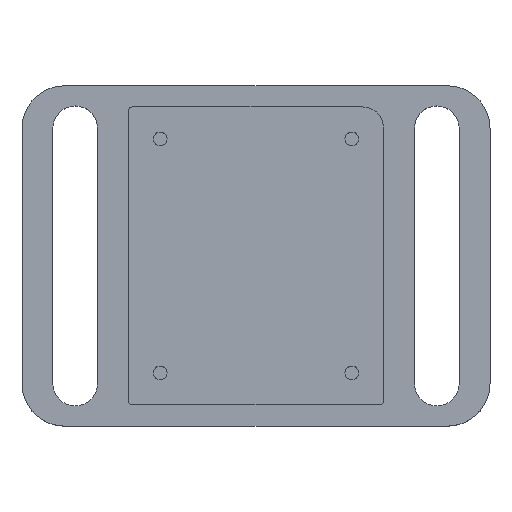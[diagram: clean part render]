
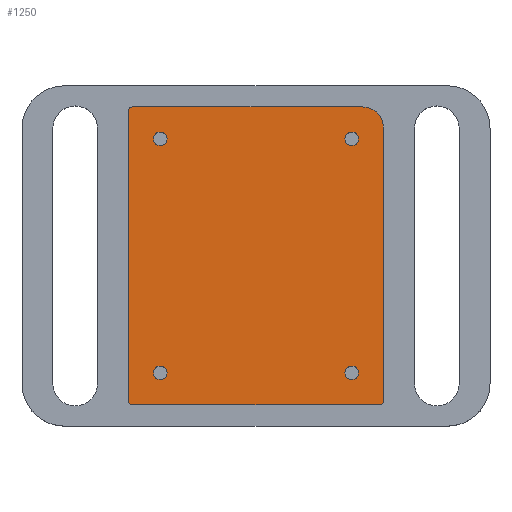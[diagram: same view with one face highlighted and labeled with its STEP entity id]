
A CAD part, top view. The second image highlights one B-rep face of the part: STEP entity #1250.
In plain terms, the highlighted planar face has unit normal (0, 0, 1).
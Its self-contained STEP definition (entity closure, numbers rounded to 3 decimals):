
#906=AXIS2_PLACEMENT_3D('Circle Axis2P3D',#904,#905,$) ;
#977=AXIS2_PLACEMENT_3D('Circle Axis2P3D',#975,#976,$) ;
#1039=AXIS2_PLACEMENT_3D('Circle Axis2P3D',#1037,#1038,$) ;
#1153=AXIS2_PLACEMENT_3D('Circle Axis2P3D',#1151,#1152,$) ;
#1166=AXIS2_PLACEMENT_3D('Plane Axis2P3D',#1163,#1164,#1165) ;
#1180=AXIS2_PLACEMENT_3D('Circle Axis2P3D',#1178,#1179,$) ;
#1189=AXIS2_PLACEMENT_3D('Circle Axis2P3D',#1187,#1188,$) ;
#1198=AXIS2_PLACEMENT_3D('Circle Axis2P3D',#1196,#1197,$) ;
#1207=AXIS2_PLACEMENT_3D('Circle Axis2P3D',#1205,#1206,$) ;
#1216=AXIS2_PLACEMENT_3D('Circle Axis2P3D',#1214,#1215,$) ;
#1225=AXIS2_PLACEMENT_3D('Circle Axis2P3D',#1223,#1224,$) ;
#1234=AXIS2_PLACEMENT_3D('Circle Axis2P3D',#1232,#1233,$) ;
#1243=AXIS2_PLACEMENT_3D('Circle Axis2P3D',#1241,#1242,$) ;
#904=CARTESIAN_POINT('Axis2P3D Location',(1.,-59.,18.1)) ;
#908=CARTESIAN_POINT('Vertex',(1.,-60.,18.1)) ;
#910=CARTESIAN_POINT('Vertex',(0.,-59.,18.1)) ;
#951=CARTESIAN_POINT('Line Origine',(0.,-30.,18.1)) ;
#955=CARTESIAN_POINT('Vertex',(0.,-1.,18.1)) ;
#975=CARTESIAN_POINT('Axis2P3D Location',(1.,-1.,18.1)) ;
#979=CARTESIAN_POINT('Vertex',(1.,0.,18.1)) ;
#1012=CARTESIAN_POINT('Vertex',(69.,0.,18.1)) ;
#1020=CARTESIAN_POINT('Line Origine',(35.,0.,18.1)) ;
#1037=CARTESIAN_POINT('Axis2P3D Location',(69.,-1.,18.1)) ;
#1041=CARTESIAN_POINT('Vertex',(70.,-1.,18.1)) ;
#1074=CARTESIAN_POINT('Vertex',(65.,-60.,18.1)) ;
#1077=CARTESIAN_POINT('Line Origine',(33.,-60.,18.1)) ;
#1106=CARTESIAN_POINT('Line Origine',(70.,-28.,18.1)) ;
#1110=CARTESIAN_POINT('Vertex',(70.,-55.,18.1)) ;
#1151=CARTESIAN_POINT('Axis2P3D Location',(65.,-55.,18.1)) ;
#1163=CARTESIAN_POINT('Axis2P3D Location',(0.,0.,18.1)) ;
#1178=CARTESIAN_POINT('Axis2P3D Location',(7.5,-7.5,18.1)) ;
#1182=CARTESIAN_POINT('Vertex',(9.1,-7.5,18.1)) ;
#1184=CARTESIAN_POINT('Vertex',(5.9,-7.5,18.1)) ;
#1187=CARTESIAN_POINT('Axis2P3D Location',(7.5,-7.5,18.1)) ;
#1196=CARTESIAN_POINT('Axis2P3D Location',(62.5,-7.5,18.1)) ;
#1200=CARTESIAN_POINT('Vertex',(64.1,-7.5,18.1)) ;
#1202=CARTESIAN_POINT('Vertex',(60.9,-7.5,18.1)) ;
#1205=CARTESIAN_POINT('Axis2P3D Location',(62.5,-7.5,18.1)) ;
#1214=CARTESIAN_POINT('Axis2P3D Location',(62.5,-52.5,18.1)) ;
#1218=CARTESIAN_POINT('Vertex',(64.1,-52.5,18.1)) ;
#1220=CARTESIAN_POINT('Vertex',(60.9,-52.5,18.1)) ;
#1223=CARTESIAN_POINT('Axis2P3D Location',(62.5,-52.5,18.1)) ;
#1232=CARTESIAN_POINT('Axis2P3D Location',(7.5,-52.5,18.1)) ;
#1236=CARTESIAN_POINT('Vertex',(9.1,-52.5,18.1)) ;
#1238=CARTESIAN_POINT('Vertex',(5.9,-52.5,18.1)) ;
#1241=CARTESIAN_POINT('Axis2P3D Location',(7.5,-52.5,18.1)) ;
#905=DIRECTION('Axis2P3D Direction',(0.,0.,1.)) ;
#952=DIRECTION('Vector Direction',(0.,-1.,0.)) ;
#976=DIRECTION('Axis2P3D Direction',(0.,0.,1.)) ;
#1021=DIRECTION('Vector Direction',(1.,0.,0.)) ;
#1038=DIRECTION('Axis2P3D Direction',(0.,-0.,1.)) ;
#1078=DIRECTION('Vector Direction',(-1.,0.,0.)) ;
#1107=DIRECTION('Vector Direction',(0.,1.,0.)) ;
#1152=DIRECTION('Axis2P3D Direction',(0.,0.,1.)) ;
#1164=DIRECTION('Axis2P3D Direction',(0.,0.,1.)) ;
#1165=DIRECTION('Axis2P3D XDirection',(1.,0.,0.)) ;
#1179=DIRECTION('Axis2P3D Direction',(0.,0.,1.)) ;
#1188=DIRECTION('Axis2P3D Direction',(0.,0.,1.)) ;
#1197=DIRECTION('Axis2P3D Direction',(0.,0.,1.)) ;
#1206=DIRECTION('Axis2P3D Direction',(0.,0.,1.)) ;
#1215=DIRECTION('Axis2P3D Direction',(0.,0.,1.)) ;
#1224=DIRECTION('Axis2P3D Direction',(0.,0.,1.)) ;
#1233=DIRECTION('Axis2P3D Direction',(0.,0.,1.)) ;
#1242=DIRECTION('Axis2P3D Direction',(0.,0.,1.)) ;
#953=VECTOR('Line Direction',#952,1.) ;
#1022=VECTOR('Line Direction',#1021,1.) ;
#1079=VECTOR('Line Direction',#1078,1.) ;
#1108=VECTOR('Line Direction',#1107,1.) ;
#1169=ORIENTED_EDGE('',*,*,#1112,.T.) ;
#1170=ORIENTED_EDGE('',*,*,#1043,.F.) ;
#1171=ORIENTED_EDGE('',*,*,#1024,.T.) ;
#1172=ORIENTED_EDGE('',*,*,#981,.F.) ;
#1173=ORIENTED_EDGE('',*,*,#957,.T.) ;
#1174=ORIENTED_EDGE('',*,*,#912,.F.) ;
#1175=ORIENTED_EDGE('',*,*,#1081,.T.) ;
#1176=ORIENTED_EDGE('',*,*,#1155,.F.) ;
#1193=ORIENTED_EDGE('',*,*,#1186,.F.) ;
#1194=ORIENTED_EDGE('',*,*,#1191,.F.) ;
#1211=ORIENTED_EDGE('',*,*,#1204,.F.) ;
#1212=ORIENTED_EDGE('',*,*,#1209,.F.) ;
#1229=ORIENTED_EDGE('',*,*,#1222,.F.) ;
#1230=ORIENTED_EDGE('',*,*,#1227,.F.) ;
#1247=ORIENTED_EDGE('',*,*,#1240,.F.) ;
#1248=ORIENTED_EDGE('',*,*,#1245,.F.) ;
#1195=FACE_BOUND('',#1192,.T.) ;
#1213=FACE_BOUND('',#1210,.T.) ;
#1231=FACE_BOUND('',#1228,.T.) ;
#1249=FACE_BOUND('',#1246,.T.) ;
#1250=ADVANCED_FACE('\X2\96F64EF651E04F554F53\X0\',(#1177,#1195,#1213,#1231,#1249),#1167,.T.) ;
#907=CIRCLE('generated circle',#906,1.) ;
#978=CIRCLE('generated circle',#977,1.) ;
#1040=CIRCLE('generated circle',#1039,1.) ;
#1154=CIRCLE('generated circle',#1153,5.) ;
#1181=CIRCLE('generated circle',#1180,1.6) ;
#1190=CIRCLE('generated circle',#1189,1.6) ;
#1199=CIRCLE('generated circle',#1198,1.6) ;
#1208=CIRCLE('generated circle',#1207,1.6) ;
#1217=CIRCLE('generated circle',#1216,1.6) ;
#1226=CIRCLE('generated circle',#1225,1.6) ;
#1235=CIRCLE('generated circle',#1234,1.6) ;
#1244=CIRCLE('generated circle',#1243,1.6) ;
#912=EDGE_CURVE('',#909,#911,#907,.F.) ;
#957=EDGE_CURVE('',#956,#911,#954,.T.) ;
#981=EDGE_CURVE('',#956,#980,#978,.F.) ;
#1024=EDGE_CURVE('',#1013,#980,#1023,.F.) ;
#1043=EDGE_CURVE('',#1013,#1042,#1040,.F.) ;
#1081=EDGE_CURVE('',#909,#1075,#1080,.F.) ;
#1112=EDGE_CURVE('',#1111,#1042,#1109,.T.) ;
#1155=EDGE_CURVE('',#1111,#1075,#1154,.F.) ;
#1186=EDGE_CURVE('',#1183,#1185,#1181,.T.) ;
#1191=EDGE_CURVE('',#1185,#1183,#1190,.T.) ;
#1204=EDGE_CURVE('',#1201,#1203,#1199,.T.) ;
#1209=EDGE_CURVE('',#1203,#1201,#1208,.T.) ;
#1222=EDGE_CURVE('',#1219,#1221,#1217,.T.) ;
#1227=EDGE_CURVE('',#1221,#1219,#1226,.T.) ;
#1240=EDGE_CURVE('',#1237,#1239,#1235,.T.) ;
#1245=EDGE_CURVE('',#1239,#1237,#1244,.T.) ;
#1168=EDGE_LOOP('',(#1169,#1170,#1171,#1172,#1173,#1174,#1175,#1176)) ;
#1192=EDGE_LOOP('',(#1193,#1194)) ;
#1210=EDGE_LOOP('',(#1211,#1212)) ;
#1228=EDGE_LOOP('',(#1229,#1230)) ;
#1246=EDGE_LOOP('',(#1247,#1248)) ;
#1177=FACE_OUTER_BOUND('',#1168,.T.) ;
#954=LINE('Line',#951,#953) ;
#1023=LINE('Line',#1020,#1022) ;
#1080=LINE('Line',#1077,#1079) ;
#1109=LINE('Line',#1106,#1108) ;
#1167=PLANE('',#1166) ;
#909=VERTEX_POINT('',#908) ;
#911=VERTEX_POINT('',#910) ;
#956=VERTEX_POINT('',#955) ;
#980=VERTEX_POINT('',#979) ;
#1013=VERTEX_POINT('',#1012) ;
#1042=VERTEX_POINT('',#1041) ;
#1075=VERTEX_POINT('',#1074) ;
#1111=VERTEX_POINT('',#1110) ;
#1183=VERTEX_POINT('',#1182) ;
#1185=VERTEX_POINT('',#1184) ;
#1201=VERTEX_POINT('',#1200) ;
#1203=VERTEX_POINT('',#1202) ;
#1219=VERTEX_POINT('',#1218) ;
#1221=VERTEX_POINT('',#1220) ;
#1237=VERTEX_POINT('',#1236) ;
#1239=VERTEX_POINT('',#1238) ;
